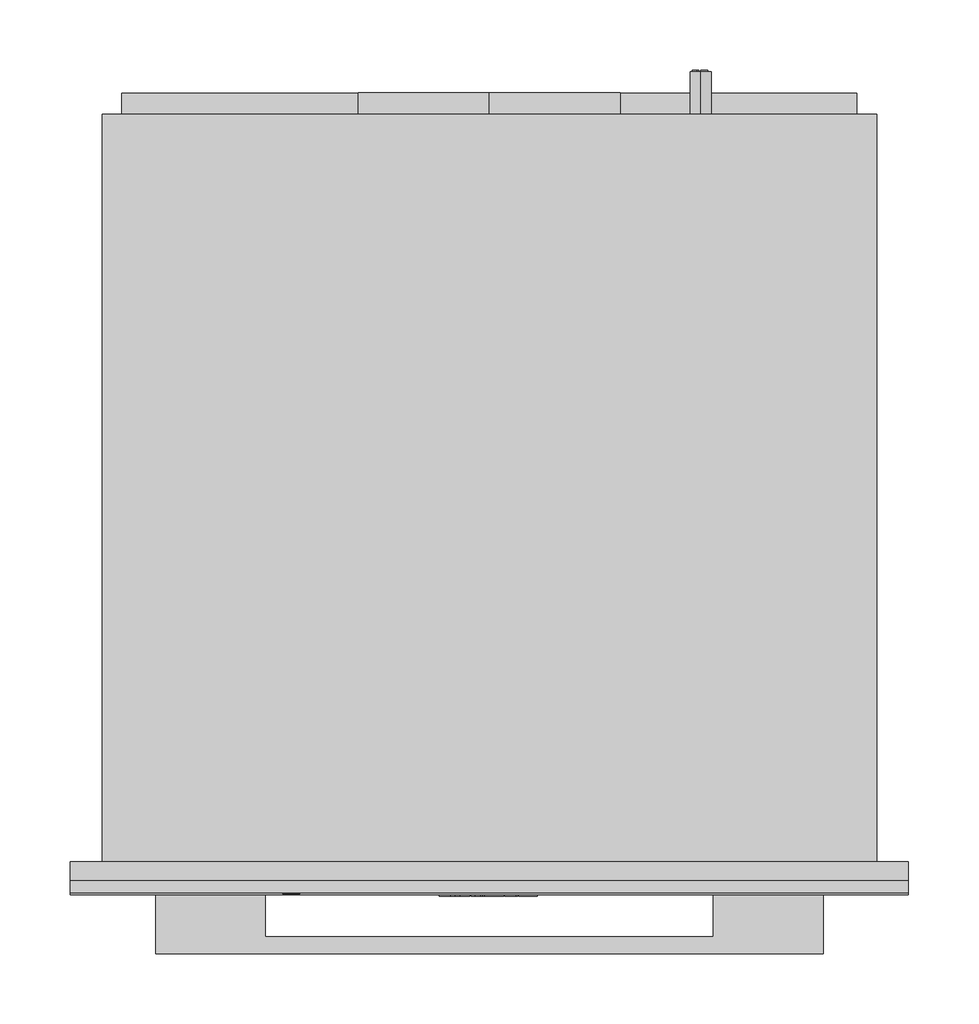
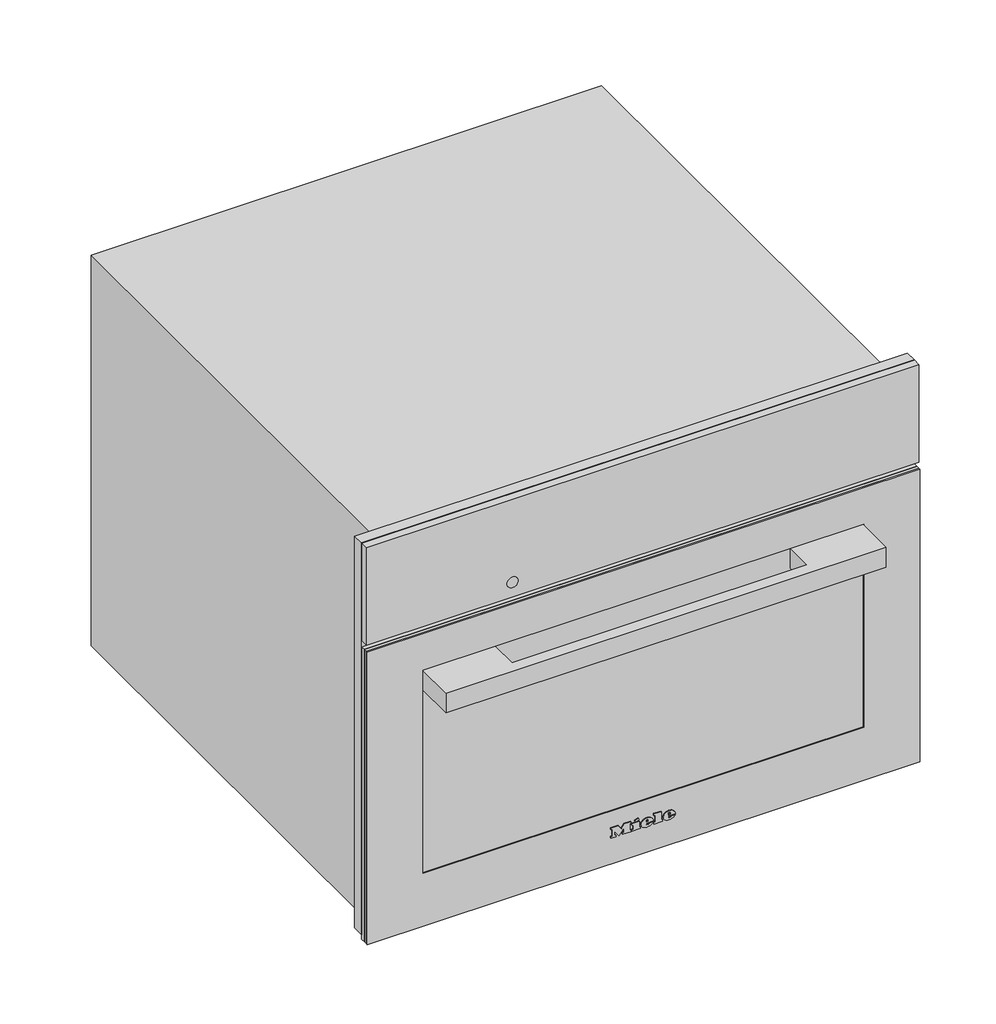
# Not in any storey: 1 proxy.
"""IFC4 building model written with IfcOpenShell, lengths in millimetres."""

import ifcopenshell
import ifcopenshell.guid

model = None  # the IFC model being written
_history = None  # IfcOwnerHistory: only IFC2X3 demands one
_inside = {}  # id of a spatial element -> (the spatial element, [elements in it])
_under = {}  # id of a project, library or spatial element -> (it, [spatial elements below it])
_declared = {}  # id of a project -> (the project, [libraries it declares])
_typed = {}  # id of a type object -> (the type object, [elements of that type])
_made_of = {}  # id of a material, layer set ... -> (it, [elements and type objects made of it])


def new_model(schema):
    """Start an empty IFC model of exactly this schema.

    Asked for "IFC4X3", IfcOpenShell would pick the latest addendum, in which some entities
    have other attributes; the version numbers below select the first issue.
    IFC2X3 requires an IfcOwnerHistory on every rooted entity: one is made here for all.
    """
    global model, _history
    if schema == "IFC4X3":
        model = ifcopenshell.file(schema_version=(4, 3, 0, 0))
    else:
        model = ifcopenshell.file(schema=schema)
    _inside.clear()
    _under.clear()
    _declared.clear()
    _typed.clear()
    _made_of.clear()
    _history = None
    if model.schema == "IFC2X3":
        org = make("IfcOrganization", Name="unknown")
        user = make(
            "IfcPersonAndOrganization",
            ThePerson=make("IfcPerson", FamilyName="unknown"),
            TheOrganization=org,
        )
        app = make(
            "IfcApplication",
            ApplicationDeveloper=org,
            Version="unknown",
            ApplicationFullName="unknown",
            ApplicationIdentifier="unknown",
        )
        _history = make(
            "IfcOwnerHistory",
            OwningUser=user,
            OwningApplication=app,
            ChangeAction="ADDED",
            CreationDate=0,
        )
    return model


def make(cls, **values):
    """One entity of the class cls with the attributes given. An attribute that is None is left unset."""
    return model.create_entity(
        cls, **{name: value for name, value in values.items() if value is not None}
    )


def rooted(cls, **values):
    """An entity with a GlobalId (a new one), such as an element, a storey or a relation."""
    return make(cls, GlobalId=ifcopenshell.guid.new(), OwnerHistory=_history, **values)


def si_unit(unit_type, name, prefix=None):
    """IfcSIUnit, for example si_unit("LENGTHUNIT", "METRE", prefix="MILLI")."""
    return make("IfcSIUnit", UnitType=unit_type, Prefix=prefix, Name=name)


def assignment(units):
    """IfcUnitAssignment: the units of a project."""
    return None if units is None else make("IfcUnitAssignment", Units=units)


def point(xyz):
    """IfcCartesianPoint."""
    return None if xyz is None else make("IfcCartesianPoint", Coordinates=xyz)


def direction(xyz):
    """IfcDirection."""
    return None if xyz is None else make("IfcDirection", DirectionRatios=xyz)


def frame(location, z_axis=None, x_axis=None):
    """IfcAxis2Placement3D, a coordinate frame: its origin and axes. An axis left out is left unset."""
    return make(
        "IfcAxis2Placement3D",
        Location=point(location),
        Axis=direction(z_axis),
        RefDirection=direction(x_axis),
    )


def frame_2d(location, x_axis=None):
    """IfcAxis2Placement2D, a coordinate frame in the plane: its origin and x axis."""
    return make(
        "IfcAxis2Placement2D", Location=point(location), RefDirection=direction(x_axis)
    )


def origin():
    """The frame at (0, 0, 0) with its axes left unset."""
    return frame((0.0, 0.0, 0.0))


def place(relative_to, where):
    """IfcLocalPlacement: puts the frame where relative to a parent placement (None: the world)."""
    return make(
        "IfcLocalPlacement", PlacementRelTo=relative_to, RelativePlacement=where
    )


def context(
    kind, dimensions, precision=None, world=None, true_north=None, identifier=None
):
    """IfcGeometricRepresentationContext, for example the 3D "Model" context."""
    return make(
        "IfcGeometricRepresentationContext",
        ContextIdentifier=identifier,
        ContextType=kind,
        CoordinateSpaceDimension=dimensions,
        Precision=precision,
        WorldCoordinateSystem=world,
        TrueNorth=true_north,
    )


def project(units=None, contexts=None):
    """IfcProject with its units and contexts."""
    return rooted(
        "IfcProject",
        Name="project",
        RepresentationContexts=contexts,
        UnitsInContext=assignment(units),
    )


def spatial(cls, under=None, at=None, **own):
    """A site, building, storey or space (cls), placed at a placement, below another one or the project."""
    s = rooted(cls, ObjectPlacement=at, **own)
    if under is not None:
        _under.setdefault(under.id(), (under, []))[1].append(s)
    return s


def polyline(points):
    """IfcPolyline through the points."""
    return make("IfcPolyline", Points=[point(p) for p in points])


def circle_curve(where, radius):
    """IfcCircle in the frame where."""
    return make("IfcCircle", Position=where, Radius=radius)


def ellipse_curve(where, semi_axis1, semi_axis2):
    """IfcEllipse in the frame where."""
    return make(
        "IfcEllipse", Position=where, SemiAxis1=semi_axis1, SemiAxis2=semi_axis2
    )


def trimmed(basis, trim1, trim2, sense, master):
    """IfcTrimmedCurve: the piece of a basis curve between two trims."""
    return make(
        "IfcTrimmedCurve",
        BasisCurve=basis,
        Trim1=trim1,
        Trim2=trim2,
        SenseAgreement=sense,
        MasterRepresentation=master,
    )


def segment(curve, same_sense, transition):
    """IfcCompositeCurveSegment."""
    return make(
        "IfcCompositeCurveSegment",
        Transition=transition,
        SameSense=same_sense,
        ParentCurve=curve,
    )


def composite_curve(segments, self_intersect=None):
    """IfcCompositeCurve: segments joined end to end."""
    return make("IfcCompositeCurve", Segments=segments, SelfIntersect=self_intersect)


def outline(outer, holes=None, kind="AREA"):
    """IfcArbitraryClosedProfileDef: a profile drawn as a closed curve; with holes, ...WithVoids."""
    if holes is None:
        return make("IfcArbitraryClosedProfileDef", ProfileType=kind, OuterCurve=outer)
    return make(
        "IfcArbitraryProfileDefWithVoids",
        ProfileType=kind,
        OuterCurve=outer,
        InnerCurves=holes,
    )


def extrude(swept, where, along, depth):
    """IfcExtrudedAreaSolid: the profile swept, set in the frame where, extruded along a direction by depth."""
    return make(
        "IfcExtrudedAreaSolid",
        SweptArea=swept,
        Position=where,
        ExtrudedDirection=direction(along),
        Depth=depth,
    )


def faces_of(points, faces, orient=None, outer=None):
    """IfcFace entities. A face is a list of loops; a loop is a list of indices into points, from 0.

    orient and outer hold one flag for each loop. By default every Orientation is true, the
    first loop of a face is its IfcFaceOuterBound and the others are IfcFaceBound.
    """
    made = []
    for i, loops in enumerate(faces):
        bounds = []
        for j, loop in enumerate(loops):
            is_outer = j == 0 if outer is None else outer[i][j]
            bounds.append(
                make(
                    "IfcFaceOuterBound" if is_outer else "IfcFaceBound",
                    Bound=make("IfcPolyLoop", Polygon=[points[k] for k in loop]),
                    Orientation=True if orient is None else orient[i][j],
                )
            )
        made.append(make("IfcFace", Bounds=bounds))
    return made


def faceted_brep(points, faces, orient=None, outer=None, voids=None):
    """IfcFacetedBrep: a solid bounded by flat faces; with voids (closed shells), ...WithVoids."""
    shared = [point(p) for p in points]
    hull = make("IfcClosedShell", CfsFaces=faces_of(shared, faces, orient, outer))
    if voids is None:
        return make("IfcFacetedBrep", Outer=hull)
    return make(
        "IfcFacetedBrepWithVoids",
        Outer=hull,
        Voids=[
            make(cls, CfsFaces=faces_of(shared, fs, o, b)) for cls, fs, o, b in voids
        ],
    )


def shape(context_of_items, identifier, shape_type, items):
    """IfcShapeRepresentation: the items that make up one representation, for example the "Body"."""
    return make(
        "IfcShapeRepresentation",
        ContextOfItems=context_of_items,
        RepresentationIdentifier=identifier,
        RepresentationType=shape_type,
        Items=items,
    )


def source(mapping_origin, context_of_items, identifier, shape_type, items):
    """IfcRepresentationMap: a shape defined once, which mapped items show again and again."""
    return make(
        "IfcRepresentationMap",
        MappingOrigin=mapping_origin,
        MappedRepresentation=shape(context_of_items, identifier, shape_type, items),
    )


def transform(
    local_origin,
    x_axis=None,
    y_axis=None,
    z_axis=None,
    scale=None,
    scale2=None,
    scale3=None,
    uniform=True,
):
    """IfcCartesianTransformationOperator3D, or its non-uniform kind. x_axis, y_axis, z_axis: its Axis1, 2, 3."""
    if uniform:
        return make(
            "IfcCartesianTransformationOperator3D",
            Axis1=direction(x_axis),
            Axis2=direction(y_axis),
            LocalOrigin=point(local_origin),
            Scale=scale,
            Axis3=direction(z_axis),
        )
    return make(
        "IfcCartesianTransformationOperator3DnonUniform",
        Axis1=direction(x_axis),
        Axis2=direction(y_axis),
        LocalOrigin=point(local_origin),
        Scale=scale,
        Axis3=direction(z_axis),
        Scale2=scale2,
        Scale3=scale3,
    )


def mapped(mapping_source, mapping_target):
    """IfcMappedItem: shows the shape of a source again, moved by a transform."""
    return make(
        "IfcMappedItem", MappingSource=mapping_source, MappingTarget=mapping_target
    )


def made_of(thing, what):
    """Note that an element or type object is made of a material, layer set ...; save() writes the relation."""
    if what is not None:
        _made_of.setdefault(what.id(), (what, []))[1].append(thing)
    return thing


def element(
    cls,
    number,
    at=None,
    inside=None,
    cuts=None,
    type_object=None,
    material=None,
    context=None,
    identifier="Body",
    shape_type=None,
    held_by="IfcProductDefinitionShape",
    body=None,
    shapes=None,
    **own,
):
    """One element of the class cls, such as IfcWall. Its Tag is "e" and its number.

    at: its placement. inside: the storey or other place that contains it. cuts: it is an
    opening in that element (IfcRelVoidsElement). A single representation is given by context,
    identifier, shape_type and body (its items); several are given by shapes. held_by: the class
    of the entity that holds the representations. save() writes the other relations.
    """
    e = rooted(cls, Tag="e%d" % number, ObjectPlacement=at, **own)
    if body is not None:
        shapes = [shape(context, identifier, shape_type, body)]
    if shapes is not None:
        e.Representation = make(held_by, Representations=shapes)
    if inside is not None:
        _inside.setdefault(inside.id(), (inside, []))[1].append(e)
    if cuts is not None:
        rooted(
            "IfcRelVoidsElement", RelatingBuildingElement=cuts, RelatedOpeningElement=e
        )
    if type_object is not None:
        _typed.setdefault(type_object.id(), (type_object, []))[1].append(e)
    return made_of(e, material)


def aggregate(whole, parts):
    """IfcRelAggregates: a whole, such as a stair, and the parts it consists of."""
    return rooted("IfcRelAggregates", RelatingObject=whole, RelatedObjects=parts)


def save(model, path):
    """Write the relations noted so far, then the file.

    IfcRelAggregates (storeys below a building ...), IfcRelContainedInSpatialStructure (elements
    in a storey), IfcRelDefinesByType, IfcRelAssociatesMaterial and IfcRelDeclares: one each for
    every whole, place, type object, material and project.
    """
    for whole, parts in _under.values():
        aggregate(whole, parts)
    for where, things in _inside.values():
        rooted(
            "IfcRelContainedInSpatialStructure",
            RelatedElements=things,
            RelatingStructure=where,
        )
    for kind, things in _typed.values():
        rooted("IfcRelDefinesByType", RelatedObjects=things, RelatingType=kind)
    for what, things in _made_of.values():
        rooted("IfcRelAssociatesMaterial", RelatedObjects=things, RelatingMaterial=what)
    for by, libraries in _declared.values():
        rooted("IfcRelDeclares", RelatingContext=by, RelatedDefinitions=libraries)
    model.write(path)


def plane_surface(at):
    """IfcPlane: the flat surface through the origin of the frame at, square to its z axis."""
    return make("IfcPlane", Position=at)


def cylinder_surface(at, radius):
    """IfcCylindricalSurface: all points at the distance radius from the z axis of the frame at."""
    return make("IfcCylindricalSurface", Position=at, Radius=radius)


def revolved_surface(curve, axis_point, axis_direction):
    """IfcSurfaceOfRevolution: the curve turned about the line through axis_point along axis_direction."""
    return make(
        "IfcSurfaceOfRevolution",
        SweptCurve=make("IfcArbitraryOpenProfileDef", ProfileType="CURVE", Curve=curve),
        AxisPosition=make("IfcAxis1Placement", Location=point(axis_point), Axis=direction(axis_direction)),
    )


def extruded_surface(curve, direction_of_extrusion, depth):
    """IfcSurfaceOfLinearExtrusion: the curve pushed along a direction by depth."""
    return make(
        "IfcSurfaceOfLinearExtrusion",
        SweptCurve=make("IfcArbitraryOpenProfileDef", ProfileType="CURVE", Curve=curve),
        ExtrudedDirection=direction(direction_of_extrusion),
        Depth=depth,
    )


def advanced_brep(points, edges, surfaces, faces):
    """IfcAdvancedBrep: a solid bounded by faces that lie on surfaces and meet in shared edges.

    An edge is (start, end): straight between two places in points (the first is 0);
    or (start, end, curve); or (start, end, curve, False) where it runs against its curve.
    A face is (place in surfaces, loops), or (place, loops, False) where it looks against
    its surface's normal. A loop lists edges by number (the first is 1), with a minus sign
    where the edge is run from its end to its start. The first loop is the outer one.
    """
    corners = [point(p) for p in points]
    vertices = [make("IfcVertexPoint", VertexGeometry=c) for c in corners]
    made = []
    for start, end, *more in edges:
        made.append(
            make(
                "IfcEdgeCurve",
                EdgeStart=vertices[start],
                EdgeEnd=vertices[end],
                EdgeGeometry=more[0] if more else make("IfcPolyline", Points=[corners[start], corners[end]]),
                SameSense=more[1] if len(more) > 1 else True,
            )
        )
    hull = []
    for where, loops, *sense in faces:
        bounds = []
        for j, loop in enumerate(loops):
            ring = [make("IfcOrientedEdge", EdgeElement=made[abs(k) - 1], Orientation=k > 0) for k in loop]
            bounds.append(
                make(
                    "IfcFaceOuterBound" if j == 0 else "IfcFaceBound",
                    Bound=make("IfcEdgeLoop", EdgeList=ring),
                    Orientation=True,
                )
            )
        hull.append(make("IfcAdvancedFace", Bounds=bounds, FaceSurface=surfaces[where], SameSense=sense[0] if sense else True))
    return make("IfcAdvancedBrep", Outer=make("IfcClosedShell", CfsFaces=hull))


def specialty_equipment_a163ca5c(model_context):
    return source(origin(), model_context, "Body", "SolidModel", [
        extrude(outline(polyline([(455.0, 297.5), (455.0, -297.5), (9.0, -297.5), (9.0, -272.5), (344.0, -272.5), (344.0, 272.5), (9.0, 272.5), (9.0, 297.5), (455.0, 297.5)])), frame((0.0, -13.0, 0.0), z_axis=(0.0, 1.0, 0.0), x_axis=(0.0, 0.0, 1.0)), (0.0, 0.0, 1.0), 13.0),
        advanced_brep(
        [(150.0, 561.0, 410.5), (150.0, 561.0, 395.5), (144.4098301, 561.0, 398.0), (148.5, 561.0, 398.0), (148.5, 561.0, 408.0), (147.4955303, 561.0, 408.0), (147.4955303, 561.0, 399.0), (144.0315043, 561.0, 399.0), (144.0315043, 561.0, 398.4582978), (155.0, 561.0, 398.0), (155.0, 561.0, 408.0), (150.0, 561.0, 408.0), (150.0, 561.0, 407.0), (154.0, 561.0, 407.0), (154.0, 561.0, 403.5), (151.0, 561.0, 403.5), (151.0, 561.0, 402.5), (154.0, 561.0, 402.5), (154.0, 561.0, 399.0), (150.0, 561.0, 399.0), (150.0, 561.0, 398.0), (150.0, 531.0, 395.5), (150.0, 531.0, 410.5), (155.0, 562.0, 408.0), (155.0, 562.0, 398.0), (150.0, 562.0, 398.0), (150.0, 562.0, 399.0), (154.0, 562.0, 399.0), (154.0, 562.0, 402.5), (151.0, 562.0, 402.5), (151.0, 562.0, 403.5), (154.0, 562.0, 403.5), (154.0, 562.0, 407.0), (150.0, 562.0, 407.0), (150.0, 562.0, 408.0), (148.5, 562.0, 398.0), (144.0315043, 562.0, 398.0), (144.0315043, 562.0, 399.0), (147.4955303, 562.0, 399.0), (147.4955303, 562.0, 408.0), (148.5, 562.0, 408.0), (144.0315043, 561.0, 398.0)],
        [
            (0, 1, circle_curve(frame((150.0, 561.0, 403.0), z_axis=(0.0, 1.0, 0.0), x_axis=(0.0, 0.0, 1.0)), 7.5)),
            (1, 2, circle_curve(frame((150.0, 561.0, 403.0), z_axis=(0.0, 1.0, 0.0), x_axis=(0.0, 0.0, 1.0)), 7.5)),
            (2, 3),
            (3, 4),
            (4, 5),
            (5, 6),
            (6, 7),
            (7, 8),
            (8, 0, circle_curve(frame((150.0, 561.0, 403.0), z_axis=(0.0, 1.0, 0.0), x_axis=(0.0, 0.0, 1.0)), 7.5)),
            (9, 10),
            (10, 11),
            (11, 12),
            (12, 13),
            (13, 14),
            (14, 15),
            (15, 16),
            (16, 17),
            (17, 18),
            (18, 19),
            (19, 20),
            (20, 9),
            (21, 22, circle_curve(frame((150.0, 531.0, 403.0), z_axis=(0.0, -1.0, 0.0), x_axis=(0.0, 0.0, 1.0)), 7.5)),
            (22, 21, circle_curve(frame((150.0, 531.0, 403.0), z_axis=(0.0, -1.0, 0.0), x_axis=(0.0, 0.0, 1.0)), 7.5)),
            (0, 22),
            (21, 1),
            (8, 2, circle_curve(frame((150.0, 561.0, 403.0), z_axis=(0.0, -1.0, 0.0), x_axis=(0.0, 0.0, 1.0)), 7.5)),
            (23, 24),
            (24, 25),
            (25, 26),
            (26, 27),
            (27, 28),
            (28, 29),
            (29, 30),
            (30, 31),
            (31, 32),
            (32, 33),
            (33, 34),
            (34, 23),
            (35, 36),
            (36, 37),
            (37, 38),
            (38, 39),
            (39, 40),
            (40, 35),
            (8, 41),
            (41, 2),
            (23, 10),
            (9, 24),
            (20, 25),
            (19, 26),
            (18, 27),
            (17, 28),
            (16, 29),
            (15, 30),
            (14, 31),
            (13, 32),
            (12, 33),
            (11, 34),
            (35, 3),
            (41, 36),
            (7, 37),
            (6, 38),
            (5, 39),
            (4, 40),
        ],
        [
            plane_surface(frame((150.0, 561.0, 410.5), z_axis=(0.0, 1.0, 0.0), x_axis=(1.0, 0.0, 0.0))),
            plane_surface(frame((150.0, 531.0, 410.5), z_axis=(0.0, -1.0, 0.0), x_axis=(-1.0, 0.0, 0.0))),
            cylinder_surface(frame((150.0, 561.0, 403.0), z_axis=(0.0, -1.0, 0.0), x_axis=(0.0, 0.0, 1.0)), 7.5),
            plane_surface(frame((155.0, 562.0, 408.0), z_axis=(0.0, 1.0, 0.0), x_axis=(0.0, 0.0, -1.0))),
            plane_surface(frame((155.0, 561.0, 408.0), z_axis=(0.0, -1.0, 0.0), x_axis=(0.0, 0.0, 1.0))),
            plane_surface(frame((155.0, 562.0, 408.0), z_axis=(1.0, 0.0, 0.0), x_axis=(0.0, -1.0, 0.0))),
            plane_surface(frame((155.0, 562.0, 398.0), z_axis=(0.0, 0.0, -1.0), x_axis=(0.0, -1.0, 0.0))),
            plane_surface(frame((150.0, 562.0, 398.0), z_axis=(-1.0, 0.0, 0.0), x_axis=(0.0, -1.0, 0.0))),
            plane_surface(frame((150.0, 562.0, 399.0), z_axis=(0.0, 0.0, 1.0), x_axis=(0.0, -1.0, 0.0))),
            plane_surface(frame((154.0, 562.0, 399.0), z_axis=(-1.0, 0.0, 0.0), x_axis=(0.0, -1.0, 0.0))),
            plane_surface(frame((154.0, 562.0, 402.5), z_axis=(0.0, 0.0, -1.0), x_axis=(0.0, -1.0, 0.0))),
            plane_surface(frame((151.0, 562.0, 402.5), z_axis=(-1.0, 0.0, 0.0), x_axis=(0.0, -1.0, 0.0))),
            plane_surface(frame((151.0, 562.0, 403.5), z_axis=(0.0, 0.0, 1.0), x_axis=(0.0, -1.0, 0.0))),
            plane_surface(frame((154.0, 562.0, 403.5), z_axis=(-1.0, 0.0, 0.0), x_axis=(0.0, -1.0, 0.0))),
            plane_surface(frame((154.0, 562.0, 407.0), z_axis=(0.0, 0.0, -1.0), x_axis=(0.0, -1.0, 0.0))),
            plane_surface(frame((150.0, 562.0, 407.0), z_axis=(-1.0, 0.0, 0.0), x_axis=(0.0, -1.0, 0.0))),
            plane_surface(frame((150.0, 562.0, 408.0), z_axis=(0.0, 0.0, 1.0), x_axis=(0.0, -1.0, 0.0))),
            plane_surface(frame((148.5, 562.0, 398.0), z_axis=(0.0, 0.0, -1.0), x_axis=(0.0, -1.0, 0.0))),
            plane_surface(frame((144.0315043, 562.0, 398.0), z_axis=(-1.0, 0.0, 0.0), x_axis=(0.0, -1.0, 0.0))),
            plane_surface(frame((144.0315043, 562.0, 399.0), z_axis=(0.0, 0.0, 1.0), x_axis=(0.0, -1.0, 0.0))),
            plane_surface(frame((147.4955303, 562.0, 399.0), z_axis=(-1.0, 0.0, 0.0), x_axis=(0.0, -1.0, 0.0))),
            plane_surface(frame((147.4955303, 562.0, 408.0), z_axis=(0.0, 0.0, 1.0), x_axis=(0.0, -1.0, 0.0))),
            plane_surface(frame((148.5, 562.0, 408.0), z_axis=(1.0, 0.0, 0.0), x_axis=(0.0, -1.0, 0.0))),
        ],
        [
            (0, [[1, 2, 3, 4, 5, 6, 7, 8, 9], [10, 11, 12, 13, 14, 15, 16, 17, 18, 19, 20, 21]]),
            (1, [[22, 23]]),
            (2, [[-1, 24, -22, 25]]),
            (2, [[-23, -24, -9, 26, -2, -25]]),
            (3, [[27, 28, 29, 30, 31, 32, 33, 34, 35, 36, 37, 38]]),
            (3, [[39, 40, 41, 42, 43, 44]]),
            (4, [[45, 46, -26]]),
            (5, [[-27, 47, -10, 48]]),
            (6, [[-28, -48, -21, 49]]),
            (7, [[-29, -49, -20, 50]]),
            (8, [[-30, -50, -19, 51]]),
            (9, [[-31, -51, -18, 52]]),
            (10, [[-32, -52, -17, 53]]),
            (11, [[-33, -53, -16, 54]]),
            (12, [[-34, -54, -15, 55]]),
            (13, [[-35, -55, -14, 56]]),
            (14, [[-36, -56, -13, 57]]),
            (15, [[-37, -57, -12, 58]]),
            (16, [[-38, -58, -11, -47]]),
            (17, [[-39, 59, -3, -46, 60]]),
            (18, [[-40, -60, -45, -8, 61]]),
            (19, [[-41, -61, -7, 62]]),
            (20, [[-42, -62, -6, 63]]),
            (21, [[-43, -63, -5, 64]]),
            (22, [[-44, -64, -4, -59]]),
        ],
    ),
        extrude(outline(polyline([(299.0, -93.0), (258.0, -93.0), (258.0, -261.0), (111.0, -261.0), (111.0, -93.0), (70.0, -93.0), (70.0, 0.0), (70.0, 93.0), (111.0, 93.0), (111.0, 261.0), (258.0, 261.0), (258.0, 93.0), (299.0, 93.0), (299.0, 0.0), (299.0, -93.0)])), frame((0.0, 531.0, 0.0), z_axis=(0.0, 1.0, 0.0), x_axis=(0.0, 0.0, 1.0)), (0.0, 0.0, 1.0), 15.0),
        faceted_brep([(275.0, 531.0, 445.0), (275.0, 531.0, 0.0), (-275.0, 531.0, 0.0), (-275.0, 531.0, 445.0), (275.0, 0.0, 445.0), (-275.0, 0.0, 445.0), (-275.0, 0.0, 0.0), (275.0, 0.0, 0.0), (-272.5, 0.0, 344.0), (272.5, 0.0, 344.0), (272.5, 0.0, 8.0), (-272.5, 0.0, 8.0), (272.5, 34.0, 344.0), (-272.5, 34.0, 344.0), (-272.5, 34.0, 8.0), (272.5, 34.0, 8.0), (161.0, 34.0, 286.0), (161.0, 34.0, 58.0), (-220.0, 34.0, 58.0), (-220.0, 34.0, 286.0), (161.0, 444.0, 286.0), (-220.0, 444.0, 286.0), (-220.0, 444.0, 58.0), (161.0, 444.0, 58.0)], [[[0, 1, 2, 3]], [[4, 5, 6, 7], [8, 9, 10, 11]], [[0, 3, 5, 4]], [[3, 2, 6, 5]], [[2, 1, 7, 6]], [[1, 0, 4, 7]], [[12, 13, 14, 15], [16, 17, 18, 19]], [[13, 12, 9, 8]], [[14, 13, 8, 11]], [[15, 14, 11, 10]], [[12, 15, 10, 9]], [[20, 21, 22, 23]], [[20, 23, 17, 16]], [[23, 22, 18, 17]], [[22, 21, 19, 18]], [[21, 20, 16, 19]]]),
        advanced_brep(
        [(26.2998, -24.3, 36.7018), (26.2998, -24.3, 37.8532), (33.9264, -24.3, 37.8532), (20.6568, -24.3, 37.8532), (23.7918, -24.3, 34.0), (33.7326, -24.3, 36.7018), (30.2898, -24.3, 36.7018), (27.5766, -24.3, 35.425), (26.2998, -24.3, 39.3124), (26.2998, -24.3, 40.555), (28.2492, -24.3, 40.555), (28.2492, -24.3, 39.3124), (26.2998, -23.3, 36.7018), (27.5766, -23.3, 35.425), (30.2898, -23.3, 36.7018), (33.7326, -23.3, 36.7018), (23.7918, -23.3, 34.0), (20.6568, -23.3, 37.8532), (33.9264, -23.3, 37.8532), (26.2998, -23.3, 37.8532), (26.2998, -23.3, 39.3124), (28.2492, -23.3, 39.3124), (28.2492, -23.3, 40.555), (26.2998, -23.3, 40.555)],
        [
            (0, 1),
            (1, 2),
            (2, 3, ellipse_curve(frame((27.2916, -24.3, 37.8532), z_axis=(0.0, -1.0, 0.0), x_axis=(-1.0, 0.0, 0.0)), 6.6348, 5.4834)),
            (3, 4, circle_curve(frame((25.0686622, -24.3, 38.2408), z_axis=(0.0, -1.0, 0.0), x_axis=(0.0, 0.0, -1.0)), 4.4288556)),
            (4, 5, circle_curve(frame((27.1587808, -24.3, 41.2504), z_axis=(0.0, -1.0, 0.0), x_axis=(0.0, 0.0, -1.0)), 7.9940516)),
            (5, 6),
            (6, 7, circle_curve(frame((28.1338588, -24.3, 37.762), z_axis=(0.0, 1.0, 0.0), x_axis=(0.0, 0.0, -1.0)), 2.4025208)),
            (7, 0, circle_curve(frame((27.5766, -24.3, 36.7018), z_axis=(0.0, 1.0, 0.0), x_axis=(0.0, 0.0, -1.0)), 1.2768)),
            (8, 9),
            (9, 10, circle_curve(frame((27.2745, -24.3, 40.555), z_axis=(0.0, 1.0, 0.0), x_axis=(0.0, 0.0, -1.0)), 0.9747)),
            (10, 11),
            (11, 8),
            (12, 13, circle_curve(frame((27.5766, -23.3, 36.7018), z_axis=(0.0, -1.0, 0.0), x_axis=(0.0, 0.0, -1.0)), 1.2768)),
            (13, 14, circle_curve(frame((28.1338588, -23.3, 37.762), z_axis=(0.0, -1.0, 0.0), x_axis=(0.0, 0.0, -1.0)), 2.4025208)),
            (14, 15),
            (15, 16, circle_curve(frame((27.1587808, -23.3, 41.2504), z_axis=(0.0, 1.0, 0.0), x_axis=(0.0, 0.0, -1.0)), 7.9940516)),
            (16, 17, circle_curve(frame((25.0686622, -23.3, 38.2408), z_axis=(0.0, 1.0, 0.0), x_axis=(0.0, 0.0, -1.0)), 4.4288556)),
            (17, 18, ellipse_curve(frame((27.2916, -23.3, 37.8532), z_axis=(0.0, 1.0, 0.0), x_axis=(-1.0, 0.0, 0.0)), 6.6348, 5.4834)),
            (18, 19),
            (19, 12),
            (20, 21),
            (21, 22),
            (22, 23, circle_curve(frame((27.2745, -23.3, 40.555), z_axis=(0.0, -1.0, 0.0), x_axis=(0.0, 0.0, -1.0)), 0.9747)),
            (23, 20),
            (0, 12),
            (19, 1),
            (18, 2),
            (5, 15),
            (14, 6),
            (17, 3),
            (13, 7),
            (16, 4),
            (8, 20),
            (23, 9),
            (22, 10),
            (21, 11),
        ],
        [
            plane_surface(frame((26.2998, -24.3, 37.8532), z_axis=(0.0, -1.0, 0.0), x_axis=(0.0, 0.0, 1.0))),
            plane_surface(frame((26.2998, -23.3, 37.8532), z_axis=(0.0, 1.0, 0.0), x_axis=(0.0, 0.0, -1.0))),
            plane_surface(frame((26.2998, -24.3, 36.7018), z_axis=(1.0, 0.0, 0.0), x_axis=(0.0, 1.0, 0.0))),
            plane_surface(frame((26.2998, -24.3, 37.8532), z_axis=(0.0, 0.0, -1.0), x_axis=(0.0, 1.0, 0.0))),
            plane_surface(frame((33.7326, -24.3, 36.7018), z_axis=(0.0, 0.0, 1.0), x_axis=(0.0, 1.0, 0.0))),
            extruded_surface(trimmed(ellipse_curve(frame((27.2916, -22.3, 37.8532), z_axis=(0.0, -1.0, 0.0), x_axis=(-1.0, 0.0, 0.0)), 6.6348, 5.4834), [point((33.9264, -22.3, 37.8532))], [point((20.6568, -22.3, 37.8532))], True, "CARTESIAN"), (0.0, -1.0, 0.0), 1.0),
            revolved_surface(polyline([(28.1338588, -23.3, 35.3594792), (28.1338588, -24.3, 35.3594792)]), (28.1338588, -23.3, 37.762), (0.0, 1.0, 0.0)),
            revolved_surface(polyline([(27.5766, -23.3, 35.425), (27.5766, -24.3, 35.425)]), (27.5766, -23.3, 36.7018), (0.0, 1.0, 0.0)),
            cylinder_surface(frame((25.0686622, -23.3, 38.2408), z_axis=(0.0, -1.0, 0.0), x_axis=(0.0, 0.0, -1.0)), 4.4288556),
            cylinder_surface(frame((27.1587808, -23.3, 41.2504), z_axis=(0.0, -1.0, 0.0), x_axis=(0.0, 0.0, -1.0)), 7.9940516),
            plane_surface(frame((26.2998, -24.3, 39.3124), z_axis=(1.0, 0.0, 0.0), x_axis=(0.0, 1.0, 0.0))),
            revolved_surface(polyline([(27.2745, -23.3, 39.5803), (27.2745, -24.3, 39.5803)]), (27.2745, -23.3, 40.555), (0.0, 1.0, 0.0)),
            plane_surface(frame((28.2492, -24.3, 40.555), z_axis=(-1.0, 0.0, 0.0), x_axis=(0.0, 1.0, 0.0))),
            plane_surface(frame((28.2492, -24.3, 39.3124), z_axis=(0.0, 0.0, 1.0), x_axis=(0.0, 1.0, 0.0))),
        ],
        [
            (0, [[1, 2, 3, 4, 5, 6, 7, 8], [9, 10, 11, 12]]),
            (1, [[13, 14, 15, 16, 17, 18, 19, 20], [21, 22, 23, 24]]),
            (2, [[-1, 25, -20, 26]]),
            (3, [[-2, -26, -19, 27]]),
            (4, [[-6, 28, -15, 29]]),
            (5, [[-3, -27, -18, 30]]),
            (6, [[-7, -29, -14, 31]]),
            (7, [[-8, -31, -13, -25]]),
            (8, [[-4, -30, -17, 32]]),
            (9, [[-5, -32, -16, -28]]),
            (10, [[-9, 33, -24, 34]]),
            (11, [[-10, -34, -23, 35]]),
            (12, [[-11, -35, -22, 36]]),
            (13, [[-12, -36, -21, -33]]),
        ],
    ),
        advanced_brep(
        [(2.508, -24.3, 36.7018), (2.508, -24.3, 37.8532), (10.1346, -24.3, 37.8532), (-3.135, -24.3, 37.8532), (0.0, -24.3, 34.0), (9.9408, -24.3, 36.7018), (6.498, -24.3, 36.7018), (3.7848, -24.3, 35.425), (2.508, -24.3, 39.3124), (2.508, -24.3, 40.555), (4.4574, -24.3, 40.555), (4.4574, -24.3, 39.3124), (2.508, -23.3, 36.7018), (3.7848, -23.3, 35.425), (6.498, -23.3, 36.7018), (9.9408, -23.3, 36.7018), (0.0, -23.3, 34.0), (-3.135, -23.3, 37.8532), (10.1346, -23.3, 37.8532), (2.508, -23.3, 37.8532), (2.508, -23.3, 39.3124), (4.4574, -23.3, 39.3124), (4.4574, -23.3, 40.555), (2.508, -23.3, 40.555)],
        [
            (0, 1),
            (1, 2),
            (2, 3, ellipse_curve(frame((3.4998, -24.3, 37.8532), z_axis=(0.0, -1.0, 0.0), x_axis=(-1.0, 0.0, 0.0)), 6.6348, 5.4834)),
            (3, 4, circle_curve(frame((1.2768622, -24.3, 38.2408), z_axis=(0.0, -1.0, 0.0), x_axis=(0.0, 0.0, -1.0)), 4.4288556)),
            (4, 5, circle_curve(frame((3.3669808, -24.3, 41.2504), z_axis=(0.0, -1.0, 0.0), x_axis=(0.0, 0.0, -1.0)), 7.9940516)),
            (5, 6),
            (6, 7, circle_curve(frame((4.3420588, -24.3, 37.762), z_axis=(0.0, 1.0, 0.0), x_axis=(0.0, 0.0, -1.0)), 2.4025208)),
            (7, 0, circle_curve(frame((3.7848, -24.3, 36.7018), z_axis=(0.0, 1.0, 0.0), x_axis=(0.0, 0.0, -1.0)), 1.2768)),
            (8, 9),
            (9, 10, circle_curve(frame((3.4827, -24.3, 40.555), z_axis=(0.0, 1.0, 0.0), x_axis=(0.0, 0.0, -1.0)), 0.9747)),
            (10, 11),
            (11, 8),
            (12, 13, circle_curve(frame((3.7848, -23.3, 36.7018), z_axis=(0.0, -1.0, 0.0), x_axis=(0.0, 0.0, -1.0)), 1.2768)),
            (13, 14, circle_curve(frame((4.3420588, -23.3, 37.762), z_axis=(0.0, -1.0, 0.0), x_axis=(0.0, 0.0, -1.0)), 2.4025208)),
            (14, 15),
            (15, 16, circle_curve(frame((3.3669808, -23.3, 41.2504), z_axis=(0.0, 1.0, 0.0), x_axis=(0.0, 0.0, -1.0)), 7.9940516)),
            (16, 17, circle_curve(frame((1.2768622, -23.3, 38.2408), z_axis=(0.0, 1.0, 0.0), x_axis=(0.0, 0.0, -1.0)), 4.4288556)),
            (17, 18, ellipse_curve(frame((3.4998, -23.3, 37.8532), z_axis=(0.0, 1.0, 0.0), x_axis=(-1.0, 0.0, 0.0)), 6.6348, 5.4834)),
            (18, 19),
            (19, 12),
            (20, 21),
            (21, 22),
            (22, 23, circle_curve(frame((3.4827, -23.3, 40.555), z_axis=(0.0, -1.0, 0.0), x_axis=(0.0, 0.0, -1.0)), 0.9747)),
            (23, 20),
            (0, 12),
            (19, 1),
            (18, 2),
            (5, 15),
            (14, 6),
            (17, 3),
            (13, 7),
            (16, 4),
            (8, 20),
            (23, 9),
            (22, 10),
            (21, 11),
        ],
        [
            plane_surface(frame((2.508, -24.3, 37.8532), z_axis=(0.0, -1.0, 0.0), x_axis=(0.0, 0.0, 1.0))),
            plane_surface(frame((2.508, -23.3, 37.8532), z_axis=(0.0, 1.0, 0.0), x_axis=(0.0, 0.0, -1.0))),
            plane_surface(frame((2.508, -24.3, 36.7018), z_axis=(1.0, 0.0, 0.0), x_axis=(0.0, 1.0, 0.0))),
            plane_surface(frame((2.508, -24.3, 37.8532), z_axis=(0.0, 0.0, -1.0), x_axis=(0.0, 1.0, 0.0))),
            plane_surface(frame((9.9408, -24.3, 36.7018), z_axis=(0.0, 0.0, 1.0), x_axis=(0.0, 1.0, 0.0))),
            extruded_surface(trimmed(ellipse_curve(frame((3.4998, -22.3, 37.8532), z_axis=(0.0, -1.0, 0.0), x_axis=(-1.0, 0.0, 0.0)), 6.6348, 5.4834), [point((10.1346, -22.3, 37.8532))], [point((-3.135, -22.3, 37.8532))], True, "CARTESIAN"), (0.0, -1.0, 0.0), 1.0),
            revolved_surface(polyline([(4.3420588, -23.3, 35.3594792), (4.3420588, -24.3, 35.3594792)]), (4.3420588, -23.3, 37.762), (0.0, 1.0, 0.0)),
            revolved_surface(polyline([(3.7848, -23.3, 35.425), (3.7848, -24.3, 35.425)]), (3.7848, -23.3, 36.7018), (0.0, 1.0, 0.0)),
            cylinder_surface(frame((1.2768622, -23.3, 38.2408), z_axis=(0.0, -1.0, 0.0), x_axis=(0.0, 0.0, -1.0)), 4.4288556),
            cylinder_surface(frame((3.3669808, -23.3, 41.2504), z_axis=(0.0, -1.0, 0.0), x_axis=(0.0, 0.0, -1.0)), 7.9940516),
            plane_surface(frame((2.508, -24.3, 39.3124), z_axis=(1.0, 0.0, 0.0), x_axis=(0.0, 1.0, 0.0))),
            revolved_surface(polyline([(3.4827, -23.3, 39.5803), (3.4827, -24.3, 39.5803)]), (3.4827, -23.3, 40.555), (0.0, 1.0, 0.0)),
            plane_surface(frame((4.4574, -24.3, 40.555), z_axis=(-1.0, 0.0, 0.0), x_axis=(0.0, 1.0, 0.0))),
            plane_surface(frame((4.4574, -24.3, 39.3124), z_axis=(0.0, 0.0, 1.0), x_axis=(0.0, 1.0, 0.0))),
        ],
        [
            (0, [[1, 2, 3, 4, 5, 6, 7, 8], [9, 10, 11, 12]]),
            (1, [[13, 14, 15, 16, 17, 18, 19, 20], [21, 22, 23, 24]]),
            (2, [[-1, 25, -20, 26]]),
            (3, [[-2, -26, -19, 27]]),
            (4, [[-6, 28, -15, 29]]),
            (5, [[-3, -27, -18, 30]]),
            (6, [[-7, -29, -14, 31]]),
            (7, [[-8, -31, -13, -25]]),
            (8, [[-4, -30, -17, 32]]),
            (9, [[-5, -32, -16, -28]]),
            (10, [[-9, 33, -24, 34]]),
            (11, [[-10, -34, -23, 35]]),
            (12, [[-11, -35, -22, 36]]),
            (13, [[-12, -36, -21, -33]]),
        ],
    ),
        extrude(outline(polyline([(44.7274, -9.9522), (42.8806, -9.0858), (44.6818, -5.2212), (46.5286, -6.0762), (44.7274, -9.9522)])), frame((0.0, -24.3, 0.0), z_axis=(0.0, 1.0, 0.0), x_axis=(0.0, 0.0, 1.0)), (0.0, 0.0, 1.0), 1.0),
        extrude(outline(polyline([(42.6298, -12.768), (40.5892, -12.768), (40.5892, -11.4114), (35.9152, -11.4114), (35.9152, -12.768), (34.0, -12.768), (34.0, -3.7734), (35.9152, -3.7734), (35.9152, -5.0958), (42.6298, -5.0958), (42.6298, -12.768)])), frame((0.0, -24.3, 0.0), z_axis=(0.0, 1.0, 0.0), x_axis=(0.0, 0.0, 1.0)), (0.0, 0.0, 1.0), 1.0),
        extrude(outline(polyline([(43.5418, 10.773), (43.5418, 12.141), (35.9152, 12.141), (35.9152, 10.773), (34.0, 10.773), (34.0, 20.0184), (35.9152, 20.0184), (35.9152, 18.6162), (45.4, 18.6162), (45.4, 10.773), (43.5418, 10.773)])), frame((0.0, -24.3, 0.0), z_axis=(0.0, 1.0, 0.0), x_axis=(0.0, 0.0, 1.0)), (0.0, 0.0, 1.0), 1.0),
        extrude(outline(polyline([(43.5418, -35.4882), (43.5418, -34.1088), (35.9152, -34.1088), (35.9152, -35.4882), (34.0, -35.4882), (34.0, -30.4722), (35.9152, -30.4722), (35.9152, -31.8402), (40.7429247, -31.8402), (34.0, -26.7444), (40.9402223, -21.6258), (35.9152, -21.6258), (35.9152, -23.028), (34.0, -23.028), (34.0, -13.9308), (35.9152, -13.9308), (35.9152, -15.3786), (43.5418, -15.3786), (43.5418, -13.9308), (45.4, -13.9308), (45.4, -20.8734), (41.125, -24.2022), (45.4, -27.5424), (45.4, -35.4882), (43.5418, -35.4882)])), frame((0.0, -24.3, 0.0), z_axis=(0.0, 1.0, 0.0), x_axis=(0.0, 0.0, 1.0)), (0.0, 0.0, 1.0), 1.0),
        extrude(outline(polyline([(297.5, -22.0), (-297.5, -22.0), (-297.5, -13.0), (297.5, -13.0), (297.5, -22.0)])), frame((0.0, 0.0, 344.0), z_axis=(0.0, 0.0, 1.0), x_axis=(1.0, 0.0, 0.0)), (0.0, 0.0, 1.0), 111.0),
        extrude(outline(composite_curve([segment(trimmed(circle_curve(frame_2d((361.0, -140.5745637)), 6.0), [point((361.0, -146.5745637))], [point((361.0, -134.5745637))], False, "CARTESIAN"), True, "CONTINUOUS"), segment(trimmed(circle_curve(frame_2d((361.0, -140.5745637)), 6.0), [point((361.0, -134.5745637))], [point((361.0, -146.5745637))], False, "CARTESIAN"), True, "CONTINUOUS")], self_intersect=False)), frame((0.0, -22.5, 0.0), z_axis=(0.0, 1.0, 0.0), x_axis=(0.0, 0.0, 1.0)), (0.0, 0.0, 1.0), 1.0),
        extrude(outline(polyline([(297.5, -18.0), (-297.5, -18.0), (-297.5, -13.0), (297.5, -13.0), (297.5, -18.0)])), frame((0.0, 0.0, 4.0), z_axis=(0.0, 0.0, 1.0), x_axis=(1.0, 0.0, 0.0)), (0.0, 0.0, 1.0), 333.0),
        extrude(outline(polyline([(337.0, 297.5), (337.0, -297.5), (4.0, -297.5), (4.0, 297.5), (337.0, 297.5)]), holes=[polyline([(295.5, -237.5), (295.5, 237.5), (64.0, 237.5), (64.0, -237.5), (295.5, -237.5)])]), frame((0.0, -23.3, 0.0), z_axis=(0.0, 1.0, 0.0), x_axis=(0.0, 0.0, 1.0)), (0.0, 0.0, 1.0), 1.3),
        extrude(outline(polyline([(-159.0, -22.0), (-159.0, -53.0), (159.0, -53.0), (159.0, -22.0), (237.0, -22.0), (237.0, -65.0), (-237.0, -65.0), (-237.0, -22.0), (-159.0, -22.0)])), frame((0.0, 0.0, 272.0), z_axis=(0.0, 0.0, 1.0), x_axis=(1.0, 0.0, 0.0)), (0.0, 0.0, 1.0), 22.5),
        extrude(outline(polyline([(297.5, -22.0), (-297.5, -22.0), (-297.5, -18.0), (297.5, -18.0), (297.5, -22.0)])), frame((0.0, 0.0, 4.0), z_axis=(0.0, 0.0, 1.0), x_axis=(1.0, 0.0, 0.0)), (0.0, 0.0, 1.0), 333.0),
    ])


model = new_model("IFC4")

# Units and contexts
model_context = context("Model", 3, world=origin())
ifc_project = project(units=[si_unit("LENGTHUNIT", "METRE", prefix="MILLI")], contexts=[model_context])

# Site, building
site = spatial("IfcSite", under=ifc_project)
building = spatial("IfcBuilding", under=site)

# Proxy
placement = place(None, origin())
specialty_equipment_shape = specialty_equipment_a163ca5c(model_context)
element("IfcBuildingElementProxy", 1, Name="11094410_GB_DG7140_EDST-CLST : 23714040_GB_11094410_DG7140_EDST-CLST", ObjectType="11094410_GB_DG7140_EDST-CLST : 23714040_GB_11094410_DG7140_EDST-CLST", at=placement, inside=building, context=model_context, shape_type="MappedRepresentation", body=[
    mapped(specialty_equipment_shape, transform((0.0, 0.0, 0.0), x_axis=(1.0, 0.0, 0.0), y_axis=(0.0, 1.0, 0.0), z_axis=(0.0, 0.0, 1.0))),
])

save(model, "model.ifc")
